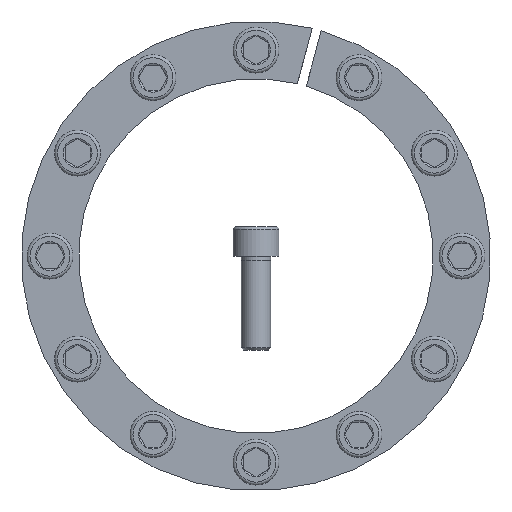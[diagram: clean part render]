
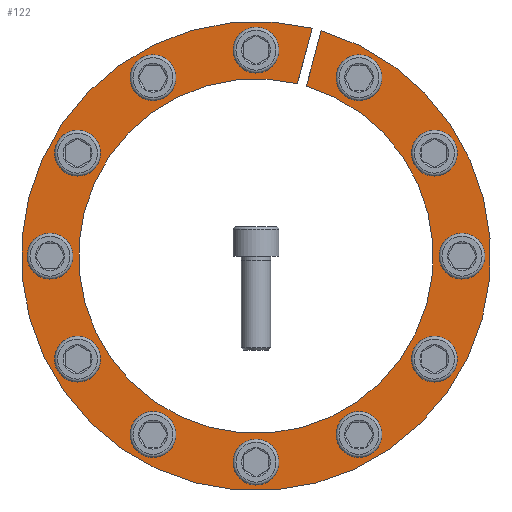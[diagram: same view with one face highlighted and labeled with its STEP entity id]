
A CAD part, front view. The second image highlights one B-rep face of the part: STEP entity #122.
In plain terms, the highlighted planar face has unit normal (0, -1, 0).
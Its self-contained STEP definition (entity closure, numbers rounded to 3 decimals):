
#122 = ADVANCED_FACE( '', ( #291, #292, #293, #294, #295, #296, #297, #298, #299, #300, #301, #302, #303 ), #304, .T. );
#291 = FACE_BOUND( '', #515, .T. );
#292 = FACE_BOUND( '', #516, .T. );
#293 = FACE_BOUND( '', #517, .T. );
#294 = FACE_BOUND( '', #518, .T. );
#295 = FACE_BOUND( '', #519, .T. );
#296 = FACE_BOUND( '', #520, .T. );
#297 = FACE_BOUND( '', #521, .T. );
#298 = FACE_BOUND( '', #522, .T. );
#299 = FACE_BOUND( '', #523, .T. );
#300 = FACE_BOUND( '', #524, .T. );
#301 = FACE_BOUND( '', #525, .T. );
#302 = FACE_BOUND( '', #526, .T. );
#303 = FACE_OUTER_BOUND( '', #527, .T. );
#304 = PLANE( '', #528 );
#515 = EDGE_LOOP( '', ( #840 ) );
#516 = EDGE_LOOP( '', ( #841 ) );
#517 = EDGE_LOOP( '', ( #842 ) );
#518 = EDGE_LOOP( '', ( #843 ) );
#519 = EDGE_LOOP( '', ( #844 ) );
#520 = EDGE_LOOP( '', ( #845 ) );
#521 = EDGE_LOOP( '', ( #846 ) );
#522 = EDGE_LOOP( '', ( #847 ) );
#523 = EDGE_LOOP( '', ( #848 ) );
#524 = EDGE_LOOP( '', ( #849 ) );
#525 = EDGE_LOOP( '', ( #850 ) );
#526 = EDGE_LOOP( '', ( #851 ) );
#527 = EDGE_LOOP( '', ( #852, #853, #854, #855 ) );
#528 = AXIS2_PLACEMENT_3D( '', #856, #857, #858 );
#840 = ORIENTED_EDGE( '', *, *, #1135, .T. );
#841 = ORIENTED_EDGE( '', *, *, #1136, .T. );
#842 = ORIENTED_EDGE( '', *, *, #1077, .T. );
#843 = ORIENTED_EDGE( '', *, *, #1137, .T. );
#844 = ORIENTED_EDGE( '', *, *, #1122, .T. );
#845 = ORIENTED_EDGE( '', *, *, #1130, .T. );
#846 = ORIENTED_EDGE( '', *, *, #1138, .T. );
#847 = ORIENTED_EDGE( '', *, *, #1139, .T. );
#848 = ORIENTED_EDGE( '', *, *, #1140, .T. );
#849 = ORIENTED_EDGE( '', *, *, #1120, .T. );
#850 = ORIENTED_EDGE( '', *, *, #1124, .T. );
#851 = ORIENTED_EDGE( '', *, *, #1141, .T. );
#852 = ORIENTED_EDGE( '', *, *, #1115, .F. );
#853 = ORIENTED_EDGE( '', *, *, #1142, .T. );
#854 = ORIENTED_EDGE( '', *, *, #1132, .T. );
#855 = ORIENTED_EDGE( '', *, *, #1087, .T. );
#856 = CARTESIAN_POINT( '', ( 0., 0., 85. ) );
#857 = DIRECTION( '', ( 0., -1., 0. ) );
#858 = DIRECTION( '', ( 0., 0., -1. ) );
#1077 = EDGE_CURVE( '', #1284, #1284, #1285, .T. );
#1087 = EDGE_CURVE( '', #1303, #1301, #1304, .T. );
#1115 = EDGE_CURVE( '', #1348, #1301, #1350, .T. );
#1120 = EDGE_CURVE( '', #1356, #1356, #1357, .T. );
#1122 = EDGE_CURVE( '', #1359, #1359, #1360, .T. );
#1124 = EDGE_CURVE( '', #1362, #1362, #1363, .T. );
#1130 = EDGE_CURVE( '', #1371, #1371, #1372, .T. );
#1132 = EDGE_CURVE( '', #1374, #1303, #1375, .T. );
#1135 = EDGE_CURVE( '', #1378, #1378, #1379, .T. );
#1136 = EDGE_CURVE( '', #1380, #1380, #1381, .T. );
#1137 = EDGE_CURVE( '', #1382, #1382, #1383, .T. );
#1138 = EDGE_CURVE( '', #1384, #1384, #1385, .T. );
#1139 = EDGE_CURVE( '', #1386, #1386, #1387, .T. );
#1140 = EDGE_CURVE( '', #1388, #1388, #1389, .T. );
#1141 = EDGE_CURVE( '', #1390, #1390, #1391, .T. );
#1142 = EDGE_CURVE( '', #1348, #1374, #1392, .T. );
#1284 = VERTEX_POINT( '', #1627 );
#1285 = CIRCLE( '', #1628, 7. );
#1301 = VERTEX_POINT( '', #1651 );
#1303 = VERTEX_POINT( '', #1654 );
#1304 = LINE( '', #1655, #1656 );
#1348 = VERTEX_POINT( '', #1709 );
#1350 = CIRCLE( '', #1712, 85. );
#1356 = VERTEX_POINT( '', #1719 );
#1357 = CIRCLE( '', #1720, 7. );
#1359 = VERTEX_POINT( '', #1722 );
#1360 = CIRCLE( '', #1723, 7. );
#1362 = VERTEX_POINT( '', #1725 );
#1363 = CIRCLE( '', #1726, 7. );
#1371 = VERTEX_POINT( '', #1734 );
#1372 = CIRCLE( '', #1735, 7. );
#1374 = VERTEX_POINT( '', #1737 );
#1375 = CIRCLE( '', #1738, 112.5 );
#1378 = VERTEX_POINT( '', #1742 );
#1379 = CIRCLE( '', #1743, 7. );
#1380 = VERTEX_POINT( '', #1744 );
#1381 = CIRCLE( '', #1745, 7. );
#1382 = VERTEX_POINT( '', #1746 );
#1383 = CIRCLE( '', #1747, 7. );
#1384 = VERTEX_POINT( '', #1748 );
#1385 = CIRCLE( '', #1749, 7. );
#1386 = VERTEX_POINT( '', #1750 );
#1387 = CIRCLE( '', #1751, 7. );
#1388 = VERTEX_POINT( '', #1752 );
#1389 = CIRCLE( '', #1753, 7. );
#1390 = VERTEX_POINT( '', #1754 );
#1391 = CIRCLE( '', #1755, 7. );
#1392 = LINE( '', #1756, #1757 );
#1627 = CARTESIAN_POINT( '', ( 89.02, 0., 43.313 ) );
#1628 = AXIS2_PLACEMENT_3D( '', #1893, #1894, #1895 );
#1651 = CARTESIAN_POINT( '', ( 24.165, 0., 81.493 ) );
#1654 = CARTESIAN_POINT( '', ( 31.285, 0., 108.063 ) );
#1655 = CARTESIAN_POINT( '', ( 31.29, 0., 108.084 ) );
#1656 = VECTOR( '', #1907, 1000. );
#1709 = CARTESIAN_POINT( '', ( 19.819, 0., 82.657 ) );
#1712 = AXIS2_PLACEMENT_3D( '', #1960, #1961, #1962 );
#1719 = CARTESIAN_POINT( '', ( -98.75, 0., 7. ) );
#1720 = AXIS2_PLACEMENT_3D( '', #1967, #1968, #1969 );
#1722 = CARTESIAN_POINT( '', ( 82.02, 0., -55.437 ) );
#1723 = AXIS2_PLACEMENT_3D( '', #1970, #1971, #1972 );
#1725 = CARTESIAN_POINT( '', ( -82.02, 0., 55.437 ) );
#1726 = AXIS2_PLACEMENT_3D( '', #1973, #1974, #1975 );
#1734 = CARTESIAN_POINT( '', ( 43.313, 0., -89.02 ) );
#1735 = AXIS2_PLACEMENT_3D( '', #1982, #1983, #1984 );
#1737 = CARTESIAN_POINT( '', ( 26.938, 0., 109.227 ) );
#1738 = AXIS2_PLACEMENT_3D( '', #1985, #1986, #1987 );
#1742 = CARTESIAN_POINT( '', ( 7., 0., 98.75 ) );
#1743 = AXIS2_PLACEMENT_3D( '', #1989, #1990, #1991 );
#1744 = CARTESIAN_POINT( '', ( 55.437, 0., 82.02 ) );
#1745 = AXIS2_PLACEMENT_3D( '', #1992, #1993, #1994 );
#1746 = CARTESIAN_POINT( '', ( 98.75, 0., -7. ) );
#1747 = AXIS2_PLACEMENT_3D( '', #1995, #1996, #1997 );
#1748 = CARTESIAN_POINT( '', ( -7., 0., -98.75 ) );
#1749 = AXIS2_PLACEMENT_3D( '', #1998, #1999, #2000 );
#1750 = CARTESIAN_POINT( '', ( -55.437, 0., -82.02 ) );
#1751 = AXIS2_PLACEMENT_3D( '', #2001, #2002, #2003 );
#1752 = CARTESIAN_POINT( '', ( -89.02, 0., -43.313 ) );
#1753 = AXIS2_PLACEMENT_3D( '', #2004, #2005, #2006 );
#1754 = CARTESIAN_POINT( '', ( -43.313, 0., 89.02 ) );
#1755 = AXIS2_PLACEMENT_3D( '', #2007, #2008, #2009 );
#1756 = CARTESIAN_POINT( '', ( 19.819, 0., 82.657 ) );
#1757 = VECTOR( '', #2010, 1000. );
#1893 = CARTESIAN_POINT( '', ( 85.52, 0., 49.375 ) );
#1894 = DIRECTION( '', ( 0., 1., 0. ) );
#1895 = DIRECTION( '', ( 0.5, 0., -0.866 ) );
#1907 = DIRECTION( '', ( -0.259, 0., -0.966 ) );
#1960 = CARTESIAN_POINT( '', ( 0., 0., 0. ) );
#1961 = DIRECTION( '', ( 0., -1., 0. ) );
#1962 = DIRECTION( '', ( 0., 0., -1. ) );
#1967 = CARTESIAN_POINT( '', ( -98.75, 0., 0. ) );
#1968 = DIRECTION( '', ( 0., 1., 0. ) );
#1969 = DIRECTION( '', ( 0., 0., 1. ) );
#1970 = CARTESIAN_POINT( '', ( 85.52, 0., -49.375 ) );
#1971 = DIRECTION( '', ( 0., 1., 0. ) );
#1972 = DIRECTION( '', ( -0.5, 0., -0.866 ) );
#1973 = CARTESIAN_POINT( '', ( -85.52, 0., 49.375 ) );
#1974 = DIRECTION( '', ( 0., 1., 0. ) );
#1975 = DIRECTION( '', ( 0.5, 0., 0.866 ) );
#1982 = CARTESIAN_POINT( '', ( 49.375, 0., -85.52 ) );
#1983 = DIRECTION( '', ( 0., 1., 0. ) );
#1984 = DIRECTION( '', ( -0.866, 0., -0.5 ) );
#1985 = CARTESIAN_POINT( '', ( 0., 0., 0. ) );
#1986 = DIRECTION( '', ( 0., -1., 0. ) );
#1987 = DIRECTION( '', ( 0., 0., -1. ) );
#1989 = CARTESIAN_POINT( '', ( 0., 0., 98.75 ) );
#1990 = DIRECTION( '', ( 0., 1., 0. ) );
#1991 = DIRECTION( '', ( 1., 0., 0. ) );
#1992 = CARTESIAN_POINT( '', ( 49.375, 0., 85.52 ) );
#1993 = DIRECTION( '', ( 0., 1., 0. ) );
#1994 = DIRECTION( '', ( 0.866, 0., -0.5 ) );
#1995 = CARTESIAN_POINT( '', ( 98.75, 0., 0. ) );
#1996 = DIRECTION( '', ( 0., 1., 0. ) );
#1997 = DIRECTION( '', ( 0., 0., -1. ) );
#1998 = CARTESIAN_POINT( '', ( 0., 0., -98.75 ) );
#1999 = DIRECTION( '', ( 0., 1., 0. ) );
#2000 = DIRECTION( '', ( -1., 0., 0. ) );
#2001 = CARTESIAN_POINT( '', ( -49.375, 0., -85.52 ) );
#2002 = DIRECTION( '', ( 0., 1., 0. ) );
#2003 = DIRECTION( '', ( -0.866, 0., 0.5 ) );
#2004 = CARTESIAN_POINT( '', ( -85.52, 0., -49.375 ) );
#2005 = DIRECTION( '', ( 0., 1., 0. ) );
#2006 = DIRECTION( '', ( -0.5, 0., 0.866 ) );
#2007 = CARTESIAN_POINT( '', ( -49.375, 0., 85.52 ) );
#2008 = DIRECTION( '', ( 0., 1., 0. ) );
#2009 = DIRECTION( '', ( 0.866, 0., 0.5 ) );
#2010 = DIRECTION( '', ( 0.259, 0., 0.966 ) );
